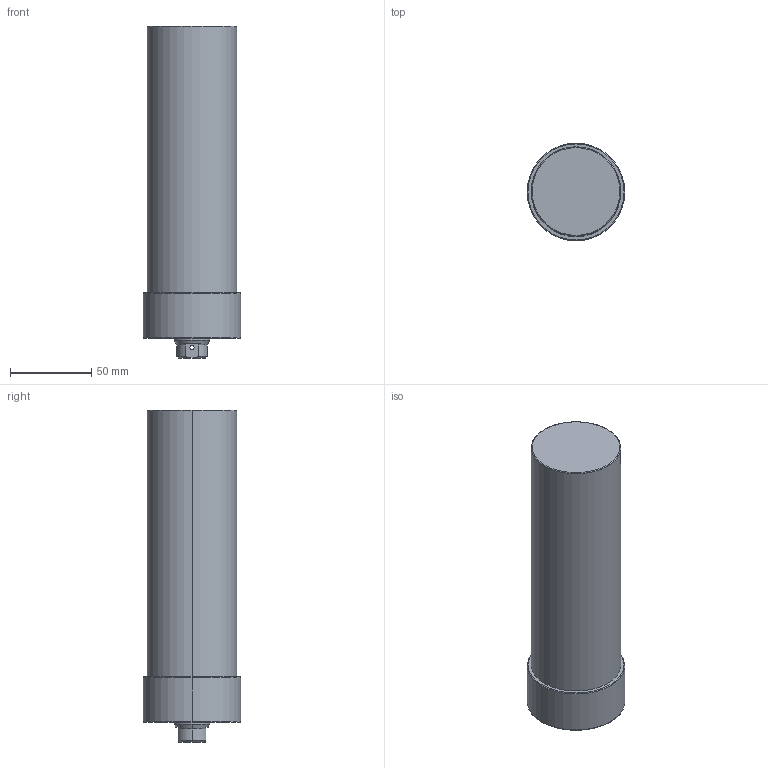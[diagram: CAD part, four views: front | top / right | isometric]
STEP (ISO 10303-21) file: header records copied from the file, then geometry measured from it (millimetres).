
FILE_DESCRIPTION (( 'STEP AP203' ), '1' );
FILE_NAME ('CLLU-055GB-135.STEP', '2020-01-06T07:24:41', ( '' ), ( '' ), 'SwSTEP 2.0', 'SolidWorks 2015', '' );
FILE_SCHEMA (( 'CONFIG_CONTROL_DESIGN' ));
Length unit declared in the file: millimetre
Products named in the file (1): CLLU-055GB-135
Bounding box: 60 x 60 x 204 mm (x, y, z)
Volume: 469094.9 mm3; surface area: 41708.3 mm2
Topology: 1 solids, 1 shells, 68 faces, 155 edges, 88 vertices
Faces by surface type: cylinder 27, cone 25, plane 10, torus 6
Entity records: 2021 total; most frequent: CARTESIAN_POINT 422, DIRECTION 350, ORIENTED_EDGE 290, AXIS2_PLACEMENT_3D 148, EDGE_CURVE 145, VERTEX_POINT 88, EDGE_LOOP 81, CIRCLE 79
